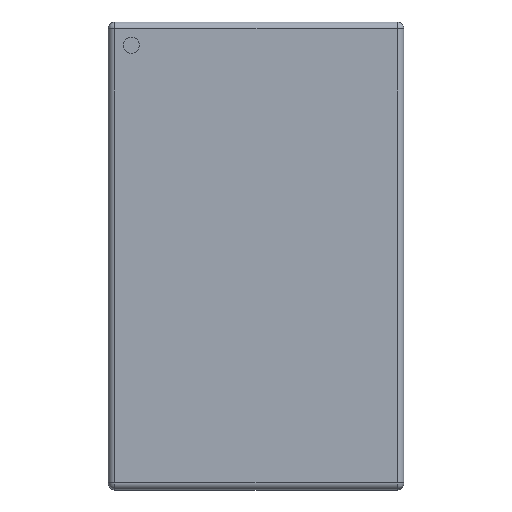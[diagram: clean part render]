
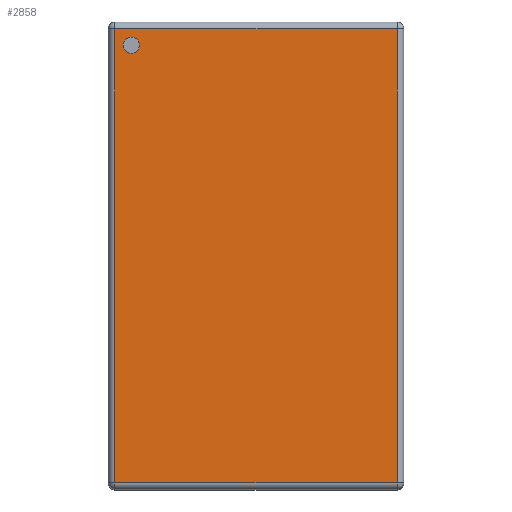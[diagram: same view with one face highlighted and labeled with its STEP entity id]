
A CAD part, top view. The second image highlights one B-rep face of the part: STEP entity #2858.
In plain terms, the highlighted planar face has unit normal (0, 0, 1).
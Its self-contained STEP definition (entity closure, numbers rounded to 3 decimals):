
#16 = EDGE_CURVE ( 'NONE', #1546, #3832, #1364, .T. ) ;
#79 = AXIS2_PLACEMENT_3D ( 'NONE', #2931, #246, #505 ) ;
#213 = CARTESIAN_POINT ( 'NONE',  ( 0.615, -0.99, 0.665 ) ) ;
#246 = DIRECTION ( 'NONE',  ( 0., 0., 1. ) ) ;
#342 = AXIS2_PLACEMENT_3D ( 'NONE', #2342, #2926, #1137 ) ;
#459 = DIRECTION ( 'NONE',  ( 0., 1., 0. ) ) ;
#476 = AXIS2_PLACEMENT_3D ( 'NONE', #2488, #892, #3681 ) ;
#505 = DIRECTION ( 'NONE',  ( 1., 0., 0. ) ) ;
#506 = CARTESIAN_POINT ( 'NONE',  ( -0.615, 0., 0.665 ) ) ;
#611 = EDGE_CURVE ( 'NONE', #649, #1546, #1082, .T. ) ;
#641 = CARTESIAN_POINT ( 'NONE',  ( -0.509, 0.919, 0.665 ) ) ;
#649 = VERTEX_POINT ( 'NONE', #2801 ) ;
#816 = VECTOR ( 'NONE', #2588, 1000. ) ;
#892 = DIRECTION ( 'NONE',  ( 0., 0., 1. ) ) ;
#910 = ORIENTED_EDGE ( 'NONE', *, *, #16, .T. ) ;
#1006 = CARTESIAN_POINT ( 'NONE',  ( -0.615, -0.99, 0.665 ) ) ;
#1040 = PLANE ( 'NONE',  #342 ) ;
#1082 = LINE ( 'NONE', #1642, #1698 ) ;
#1137 = DIRECTION ( 'NONE',  ( -1., 0., 0. ) ) ;
#1215 = CARTESIAN_POINT ( 'NONE',  ( -0.58, 0.919, 0.665 ) ) ;
#1331 = FACE_BOUND ( 'NONE', #3148, .T. ) ;
#1349 = CARTESIAN_POINT ( 'NONE',  ( 0.615, 0., 0.665 ) ) ;
#1359 = DIRECTION ( 'NONE',  ( -1., 0., 0. ) ) ;
#1364 = LINE ( 'NONE', #506, #816 ) ;
#1484 = VECTOR ( 'NONE', #2466, 1000. ) ;
#1546 = VERTEX_POINT ( 'NONE', #3157 ) ;
#1553 = ORIENTED_EDGE ( 'NONE', *, *, #611, .T. ) ;
#1642 = CARTESIAN_POINT ( 'NONE',  ( 0., 0.99, 0.665 ) ) ;
#1655 = LINE ( 'NONE', #1349, #3937 ) ;
#1698 = VECTOR ( 'NONE', #1359, 1000. ) ;
#1823 = LINE ( 'NONE', #2797, #1484 ) ;
#1945 = CIRCLE ( 'NONE', #79, 0.035 ) ;
#2223 = VERTEX_POINT ( 'NONE', #641 ) ;
#2291 = EDGE_CURVE ( 'NONE', #3832, #3889, #1823, .T. ) ;
#2342 = CARTESIAN_POINT ( 'NONE',  ( 0., 0., 0.665 ) ) ;
#2466 = DIRECTION ( 'NONE',  ( 1., 0., 0. ) ) ;
#2488 = CARTESIAN_POINT ( 'NONE',  ( -0.544, 0.919, 0.665 ) ) ;
#2513 = ORIENTED_EDGE ( 'NONE', *, *, #2291, .T. ) ;
#2588 = DIRECTION ( 'NONE',  ( 0., -1., 0. ) ) ;
#2658 = EDGE_CURVE ( 'NONE', #3212, #2223, #1945, .T. ) ;
#2755 = EDGE_LOOP ( 'NONE', ( #910, #2513, #3749, #1553 ) ) ;
#2797 = CARTESIAN_POINT ( 'NONE',  ( 0., -0.99, 0.665 ) ) ;
#2801 = CARTESIAN_POINT ( 'NONE',  ( 0.615, 0.99, 0.665 ) ) ;
#2858 = ADVANCED_FACE ( 'NONE', ( #1331, #3795 ), #1040, .F. ) ;
#2926 = DIRECTION ( 'NONE',  ( 0., 0., -1. ) ) ;
#2931 = CARTESIAN_POINT ( 'NONE',  ( -0.544, 0.919, 0.665 ) ) ;
#2963 = ORIENTED_EDGE ( 'NONE', *, *, #3055, .F. ) ;
#3055 = EDGE_CURVE ( 'NONE', #2223, #3212, #3374, .T. ) ;
#3148 = EDGE_LOOP ( 'NONE', ( #2963, #3943 ) ) ;
#3157 = CARTESIAN_POINT ( 'NONE',  ( -0.615, 0.99, 0.665 ) ) ;
#3212 = VERTEX_POINT ( 'NONE', #1215 ) ;
#3374 = CIRCLE ( 'NONE', #476, 0.035 ) ;
#3377 = EDGE_CURVE ( 'NONE', #3889, #649, #1655, .T. ) ;
#3681 = DIRECTION ( 'NONE',  ( 1., 0., 0. ) ) ;
#3749 = ORIENTED_EDGE ( 'NONE', *, *, #3377, .T. ) ;
#3795 = FACE_OUTER_BOUND ( 'NONE', #2755, .T. ) ;
#3832 = VERTEX_POINT ( 'NONE', #1006 ) ;
#3889 = VERTEX_POINT ( 'NONE', #213 ) ;
#3937 = VECTOR ( 'NONE', #459, 1000. ) ;
#3943 = ORIENTED_EDGE ( 'NONE', *, *, #2658, .F. ) ;
